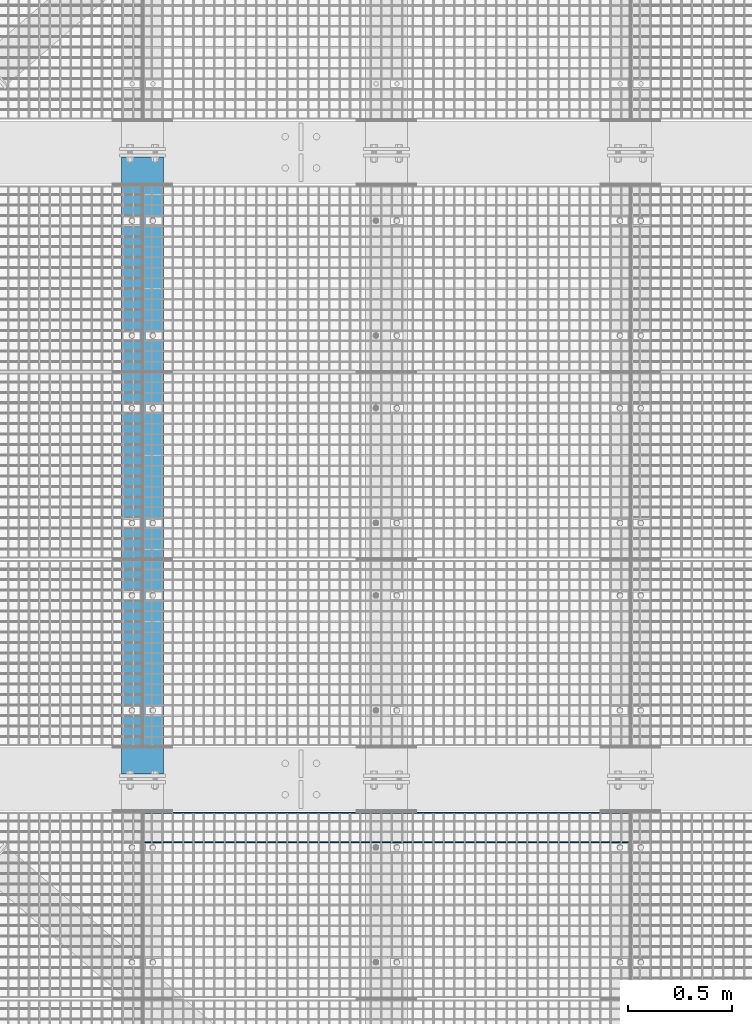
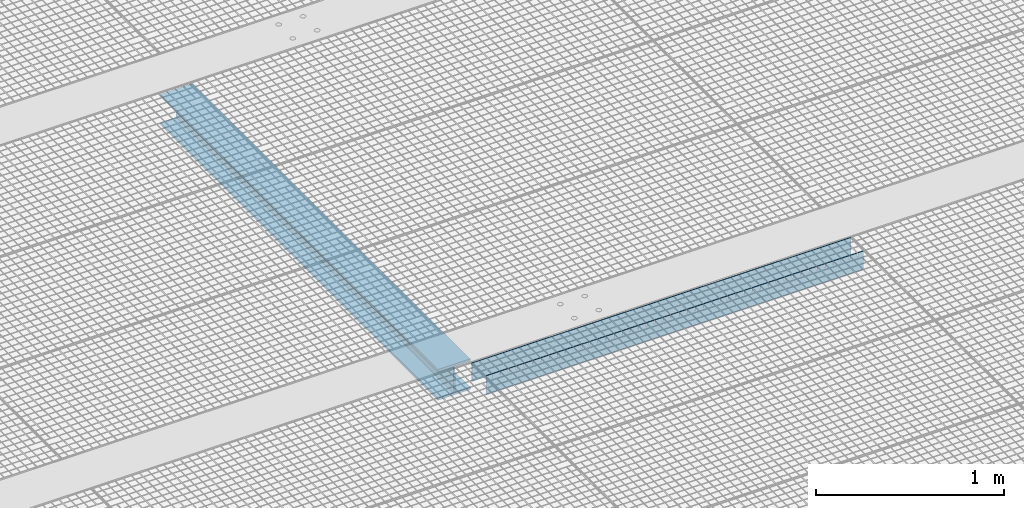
# One storey, part 365 of 1530: 3 beams.
"""IFC2X3 building model written with IfcOpenShell, lengths in millimetres."""

from ifc_helpers import new_model, si_unit, frame, origin_with_axes, place, context, subcontext, project, spatial, faceted_brep, material, type_object, element, save


model = new_model("IFC2X3")

# Units and contexts
model_context = context("Model", 3, precision=1e-05, world=origin_with_axes())
body_context = subcontext(model_context, "Body", "Model", "MODEL_VIEW")
ifc_project = project(units=[si_unit("LENGTHUNIT", "METRE", prefix="MILLI"), si_unit("AREAUNIT", "SQUARE_METRE"), si_unit("VOLUMEUNIT", "CUBIC_METRE"), si_unit("MASSUNIT", "GRAM", prefix="KILO"), si_unit("TIMEUNIT", "SECOND"), si_unit("PLANEANGLEUNIT", "RADIAN"), si_unit("SOLIDANGLEUNIT", "STERADIAN"), si_unit("THERMODYNAMICTEMPERATUREUNIT", "DEGREE_CELSIUS"), si_unit("LUMINOUSINTENSITYUNIT", "LUMEN")], contexts=[model_context])

# Site, building, storey
site_placement = place(None, origin_with_axes())
site = spatial("IfcSite", under=ifc_project, at=site_placement, Name="Brattvåg", CompositionType="ELEMENT")
building_placement = place(site_placement, origin_with_axes())
building = spatial("IfcBuilding", under=site, at=building_placement, Name="Undefined", CompositionType="ELEMENT")
storey_placement = place(building_placement, origin_with_axes())
storey = spatial("IfcBuildingStorey", under=building, at=storey_placement, Name="Undefined", CompositionType="ELEMENT", Elevation=0.0)

# Beams
ifc_material_1 = material(Name="STEEL/S355J2")
beam_type_1 = type_object("IfcBeamType", Name="120*5", PredefinedType="NOTDEFINED")
beam_1_placement = place(storey_placement, frame((7570.01317977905, 2696.99563598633, -59.9998626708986), z_axis=(0.0, 0.0, 1.0), x_axis=(-1.0, 1.99999855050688e-09, 0.0)))
element("IfcBeam", 1, at=beam_1_placement, inside=storey, type_object=beam_type_1, material=ifc_material_1, Name="GRATING", context=body_context, shape_type="Brep", body=[
    faceted_brep([(83.5790367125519, -2.50000000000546, 60.0000722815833), (83.5790367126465, -2.50000000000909, 35.0001373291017), (83.5790367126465, 2.50022888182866, 35.0001373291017), (83.5790367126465, 2.5, 60.0), (88.5790367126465, -2.50000000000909, 35.0001373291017), (88.5790367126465, 2.50022888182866, 35.0001373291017), (88.5790367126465, -2.50000000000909, 60.0001373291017), (88.5790367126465, 2.5, 60.0), (38.6284370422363, -2.50000000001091, 60.0001373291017), (38.6284370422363, 2.5, 60.0), (38.6284370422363, 2.49999999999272, 35.0001373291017), (38.6284370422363, -2.50000000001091, 35.0001373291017), (33.6284370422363, 2.49999999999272, 35.0001373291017), (33.6284370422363, -2.50000000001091, 35.0001373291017), (33.6284370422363, -2.5, 60.0), (33.6284370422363, 2.5, 60.0), (0.0, 2.5, 60.0), (0.0, -2.5, 60.0), (0.0, -2.5, -60.0), (0.0, 2.5, -60.0), (2319.99865722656, 2.5, -60.0), (2319.99865722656, -2.5, -60.0), (2319.99865722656, -2.5, 60.0), (2319.99865722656, 2.5, 60.0), (2286.37871932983, 2.5, 60.0), (2286.37871932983, -2.50000000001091, 60.0001373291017), (2286.37871932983, 2.49999999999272, 35.0001373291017), (2286.37871932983, -2.50000000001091, 35.0001373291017), (2281.37871932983, 2.49999999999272, 35.0001373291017), (2281.37871932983, -2.50000000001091, 35.0001373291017), (2281.37871932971, -2.50000000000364, 60.0000634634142), (2281.37871932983, 2.5, 60.0), (2236.42859649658, 2.5, 60.0), (2236.42859649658, -2.50000000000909, 60.0001373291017), (2236.42859649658, 2.50022888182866, 35.0001373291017), (2236.42859649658, -2.50000000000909, 35.0001373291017), (2231.42859649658, 2.50022888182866, 35.0001373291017), (2231.42859649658, -2.50000000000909, 35.0001373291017), (2231.42859649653, -2.50000000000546, 60.0000910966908), (2231.42859649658, 2.5, 60.0), (2186.47847366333, 2.5, 60.0), (2186.47847366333, -2.50000000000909, 60.0001373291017), (2186.47847366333, 2.50022888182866, 35.0001373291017), (2186.47847366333, -2.50000000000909, 35.0001373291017), (2181.47847366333, 2.50022888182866, 35.0001373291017), (2181.47847366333, -2.50000000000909, 35.0001373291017), (2181.47847366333, -2.5, 60.0), (2181.47847366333, 2.5, 60.0), (2136.52882766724, 2.5, 60.0), (2136.52882766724, -2.50000000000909, 60.0001373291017), (2136.52882766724, 2.50022888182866, 35.0001373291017), (2136.52882766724, -2.50000000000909, 35.0001373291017), (2131.52882766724, 2.50022888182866, 35.0001373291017), (2131.52882766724, -2.50000000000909, 35.0001373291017), (2131.52882766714, -2.50000000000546, 60.0000722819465), (2131.52882766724, 2.5, 60.0), (2086.57870483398, 2.5, 60.0), (2086.57870483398, -2.50000000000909, 60.0001373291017), (2086.57870483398, 2.50022888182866, 35.0001373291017), (2086.57870483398, -2.50000000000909, 35.0001373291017), (2081.57870483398, 2.50022888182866, 35.0001373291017), (2081.57870483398, -2.50000000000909, 35.0001373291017), (2081.57870483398, -2.5, 60.0), (2081.57870483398, 2.5, 60.0), (2036.62858200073, 2.5, 60.0), (2036.62858200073, -2.50000000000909, 60.0001373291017), (2036.62858200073, 2.50022888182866, 35.0001373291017), (2036.62858200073, -2.50000000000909, 35.0001373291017), (2031.62858200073, 2.50022888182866, 35.0001373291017), (2031.62858200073, -2.50000000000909, 35.0001373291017), (2031.62858200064, -2.50000000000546, 60.0000722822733), (2031.62858200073, 2.5, 60.0), (1986.67845916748, 2.5, 60.0), (1986.67845916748, -2.50000000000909, 60.0001373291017), (1986.67845916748, 2.50022888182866, 35.0001373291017), (1986.67845916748, -2.50000000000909, 35.0001373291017), (1981.67845916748, 2.50022888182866, 35.0001373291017), (1981.67845916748, -2.50000000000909, 35.0001373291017), (1981.67845916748, -2.5, 60.0), (1981.67845916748, 2.5, 60.0), (1936.72881317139, 2.5, 60.0), (1936.72881317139, -2.50000000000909, 60.0001373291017), (1936.72881317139, 2.50022888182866, 35.0001373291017), (1936.72881317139, -2.50000000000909, 35.0001373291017), (1931.72881317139, 2.50022888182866, 35.0001373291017), (1931.72881317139, -2.50000000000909, 35.0001373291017), (1931.72881317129, -2.50000000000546, 60.0000722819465), (1931.72881317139, 2.5, 60.0), (1886.77869033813, 2.5, 60.0), (1886.77869033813, -2.50000000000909, 60.0001373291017), (1886.77869033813, 2.50022888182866, 35.0001373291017), (1886.77869033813, -2.50000000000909, 35.0001373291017), (1881.77869033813, 2.50022888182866, 35.0001373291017), (1881.77869033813, -2.50000000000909, 35.0001373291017), (1881.77869033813, -2.5, 60.0), (1881.77869033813, 2.5, 60.0), (1836.82856750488, 2.5, 60.0), (1836.82856750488, -2.50000000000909, 60.0001373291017), (1836.82856750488, 2.50022888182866, 35.0001373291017), (1836.82856750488, -2.50000000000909, 35.0001373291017), (1831.82856750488, 2.50022888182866, 35.0001373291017), (1831.82856750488, -2.50000000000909, 35.0001373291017), (1831.82856750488, -2.5, 60.0), (1831.82856750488, 2.5, 60.0), (1786.87892150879, 2.5, 60.0), (1786.87892150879, -2.50000000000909, 60.0001373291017), (1786.87892150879, 2.50022888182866, 35.0001373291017), (1786.87892150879, -2.50000000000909, 35.0001373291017), (1781.87892150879, 2.50022888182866, 35.0001373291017), (1781.87892150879, -2.50000000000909, 35.0001373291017), (1781.87892150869, -2.50000000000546, 60.0000722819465), (1781.87892150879, 2.5, 60.0), (1736.92879867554, 2.5, 60.0), (1736.92879867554, -2.50000000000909, 60.0001373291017), (1736.92879867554, 2.50022888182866, 35.0001373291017), (1736.92879867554, -2.50000000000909, 35.0001373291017), (1731.92879867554, 2.50022888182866, 35.0001373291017), (1731.92879867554, -2.50000000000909, 35.0001373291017), (1731.92879867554, -2.5, 60.0), (1731.92879867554, 2.5, 60.0), (1686.97867584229, 2.5, 60.0), (1686.97867584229, -2.50000000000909, 60.0001373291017), (1686.97867584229, 2.50022888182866, 35.0001373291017), (1686.97867584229, -2.50000000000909, 35.0001373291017), (1681.97867584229, 2.50022888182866, 35.0001373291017), (1681.97867584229, -2.50000000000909, 35.0001373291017), (1681.97867584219, -2.50000000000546, 60.0000722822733), (1681.97867584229, 2.5, 60.0), (1637.02855300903, 2.5, 60.0), (1637.02855300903, -2.50000000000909, 60.0001373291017), (1637.02855300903, 2.50022888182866, 35.0001373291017), (1637.02855300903, -2.50000000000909, 35.0001373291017), (1632.02855300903, 2.50022888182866, 35.0001373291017), (1632.02855300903, -2.50000000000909, 35.0001373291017), (1632.02855300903, -2.5, 60.0), (1632.02855300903, 2.5, 60.0), (1587.07890701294, 2.5, 60.0), (1587.07890701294, -2.50000000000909, 60.0001373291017), (1587.07890701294, 2.50022888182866, 35.0001373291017), (1587.07890701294, -2.50000000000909, 35.0001373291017), (1582.07890701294, 2.50022888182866, 35.0001373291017), (1582.07890701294, -2.50000000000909, 35.0001373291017), (1582.07890701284, -2.50000000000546, 60.0000722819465), (1582.07890701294, 2.5, 60.0), (1537.12878417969, 2.5, 60.0), (1537.12878417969, -2.50000000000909, 60.0001373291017), (1537.12878417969, 2.50022888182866, 35.0001373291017), (1537.12878417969, -2.50000000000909, 35.0001373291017), (1532.12878417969, 2.50022888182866, 35.0001373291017), (1532.12878417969, -2.50000000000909, 35.0001373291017), (1532.12878417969, -2.5, 60.0), (1532.12878417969, 2.5, 60.0), (1487.17866134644, 2.5, 60.0), (1487.17866134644, -2.50000000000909, 60.0001373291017), (1487.17866134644, 2.50022888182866, 35.0001373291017), (1487.17866134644, -2.50000000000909, 35.0001373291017), (1482.17866134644, 2.50022888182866, 35.0001373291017), (1482.17866134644, -2.50000000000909, 35.0001373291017), (1482.17866134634, -2.50000000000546, 60.0000722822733), (1482.17866134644, 2.5, 60.0), (1437.22853851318, 2.5, 60.0), (1437.22853851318, -2.50000000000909, 60.0001373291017), (1437.22853851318, 2.50022888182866, 35.0001373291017), (1437.22853851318, -2.50000000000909, 35.0001373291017), (1432.22853851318, 2.50022888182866, 35.0001373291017), (1432.22853851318, -2.50000000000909, 35.0001373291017), (1432.22853851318, -2.5, 60.0), (1432.22853851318, 2.5, 60.0), (1387.27889251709, 2.5, 60.0), (1387.27889251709, -2.50000000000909, 60.0001373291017), (1387.27889251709, 2.50022888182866, 35.0001373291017), (1387.27889251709, -2.50000000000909, 35.0001373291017), (1382.27889251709, 2.50022888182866, 35.0001373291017), (1382.27889251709, -2.50000000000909, 35.0001373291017), (1382.278892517, -2.50000000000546, 60.0000722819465), (1382.27889251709, 2.5, 60.0), (1337.32876968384, 2.5, 60.0), (1337.32876968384, -2.50000000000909, 60.0001373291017), (1337.32876968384, 2.50022888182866, 35.0001373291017), (1337.32876968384, -2.50000000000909, 35.0001373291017), (1332.32876968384, 2.50022888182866, 35.0001373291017), (1332.32876968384, -2.50000000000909, 35.0001373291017), (1332.32876968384, -2.5, 60.0), (1332.32876968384, 2.5, 60.0), (1287.37864685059, 2.5, 60.0), (1287.37864685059, -2.50000000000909, 60.0001373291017), (1287.37864685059, 2.50022888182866, 35.0001373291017), (1287.37864685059, -2.50000000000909, 35.0001373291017), (1282.37864685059, 2.50022888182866, 35.0001373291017), (1282.37864685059, -2.50000000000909, 35.0001373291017), (1282.37864685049, -2.50000000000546, 60.0000722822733), (1282.37864685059, 2.5, 60.0), (1237.42852401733, 2.5, 60.0), (1237.42852401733, -2.50000000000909, 60.0001373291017), (1237.42852401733, 2.50022888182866, 35.0001373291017), (1237.42852401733, -2.50000000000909, 35.0001373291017), (1232.42852401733, 2.50022888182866, 35.0001373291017), (1232.42852401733, -2.50000000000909, 35.0001373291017), (1232.42852401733, -2.5, 60.0), (1232.42852401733, 2.5, 60.0), (1187.47887802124, 2.5, 60.0), (1187.47887802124, -2.50000000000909, 60.0001373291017), (1187.47887802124, 2.50022888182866, 35.0001373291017), (1187.47887802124, -2.50000000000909, 35.0001373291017), (1182.47887802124, 2.50022888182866, 35.0001373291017), (1182.47887802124, -2.50000000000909, 35.0001373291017), (1182.47887802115, -2.50000000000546, 60.0000722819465), (1182.47887802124, 2.5, 60.0), (1137.52875518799, 2.5, 60.0), (1137.52875518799, -2.50000000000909, 60.0001373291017), (1137.52875518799, 2.50022888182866, 35.0001373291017), (1137.52875518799, -2.50000000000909, 35.0001373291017), (1132.52875518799, 2.50022888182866, 35.0001373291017), (1132.52875518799, -2.50000000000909, 35.0001373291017), (1132.52875518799, -2.5, 60.0), (1132.52875518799, 2.5, 60.0), (1087.57863235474, 2.5, 60.0), (1087.57863235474, -2.50000000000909, 60.0001373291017), (1087.57863235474, 2.50022888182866, 35.0001373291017), (1087.57863235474, -2.50000000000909, 35.0001373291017), (1082.57863235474, 2.50022888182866, 35.0001373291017), (1082.57863235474, -2.50000000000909, 35.0001373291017), (1082.57863235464, -2.50000000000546, 60.0000722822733), (1082.57863235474, 2.5, 60.0), (1037.62850952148, 2.5, 60.0), (1037.62850952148, -2.50000000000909, 60.0001373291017), (1037.62850952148, 2.50022888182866, 35.0001373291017), (1037.62850952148, -2.50000000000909, 35.0001373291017), (1032.62850952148, 2.50022888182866, 35.0001373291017), (1032.62850952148, -2.50000000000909, 35.0001373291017), (1032.62850952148, -2.5, 60.0), (1032.62850952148, 2.5, 60.0), (987.678863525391, 2.5, 60.0), (987.678863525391, -2.50000000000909, 60.0001373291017), (987.678863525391, 2.50022888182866, 35.0001373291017), (987.678863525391, -2.50000000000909, 35.0001373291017), (982.678863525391, 2.50022888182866, 35.0001373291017), (982.678863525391, -2.50000000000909, 35.0001373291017), (982.678863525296, -2.50000000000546, 60.0000722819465), (982.678863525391, 2.5, 60.0), (937.728740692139, 2.5, 60.0), (937.728740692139, -2.50000000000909, 60.0001373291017), (937.728740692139, 2.50022888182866, 35.0001373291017), (937.728740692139, -2.50000000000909, 35.0001373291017), (932.728740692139, 2.50022888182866, 35.0001373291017), (932.728740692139, -2.50000000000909, 35.0001373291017), (932.728740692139, -2.5, 60.0), (932.728740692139, 2.5, 60.0), (887.778617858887, 2.5, 60.0), (887.778617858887, -2.50000000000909, 60.0001373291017), (887.778617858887, 2.50022888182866, 35.0001373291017), (887.778617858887, -2.50000000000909, 35.0001373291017), (882.778617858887, 2.50022888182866, 35.0001373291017), (882.778617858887, -2.50000000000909, 35.0001373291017), (882.778617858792, -2.50000000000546, 60.0000722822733), (882.778617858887, 2.5, 60.0), (837.828495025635, 2.5, 60.0), (837.828495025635, -2.50000000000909, 60.0001373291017), (837.828495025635, 2.50022888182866, 35.0001373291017), (837.828495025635, -2.50000000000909, 35.0001373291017), (832.828495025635, 2.50022888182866, 35.0001373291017), (832.828495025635, -2.50000000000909, 35.0001373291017), (832.828495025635, -2.5, 60.0), (832.828495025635, 2.5, 60.0), (787.878849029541, 2.5, 60.0), (787.878849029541, -2.50000000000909, 60.0001373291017), (787.878849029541, 2.50022888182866, 35.0001373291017), (787.878849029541, -2.50000000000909, 35.0001373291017), (782.878849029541, 2.50022888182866, 35.0001373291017), (782.878849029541, -2.50000000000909, 35.0001373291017), (782.878849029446, -2.50000000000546, 60.0000722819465), (782.878849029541, 2.5, 60.0), (737.928726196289, 2.5, 60.0), (737.928726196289, -2.50000000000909, 60.0001373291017), (737.928726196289, 2.50022888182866, 35.0001373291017), (737.928726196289, -2.50000000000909, 35.0001373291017), (732.928726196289, 2.50022888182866, 35.0001373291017), (732.928726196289, -2.50000000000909, 35.0001373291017), (732.928726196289, -2.5, 60.0), (732.928726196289, 2.5, 60.0), (687.978603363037, 2.5, 60.0), (687.978603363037, -2.50000000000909, 60.0001373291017), (687.978603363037, 2.50022888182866, 35.0001373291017), (687.978603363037, -2.50000000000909, 35.0001373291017), (682.978603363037, 2.50022888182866, 35.0001373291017), (682.978603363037, -2.50000000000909, 35.0001373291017), (682.978603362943, -2.50000000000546, 60.0000722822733), (682.978603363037, 2.5, 60.0), (638.028480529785, 2.5, 60.0), (638.028480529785, -2.50000000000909, 60.0001373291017), (638.028480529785, 2.50022888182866, 35.0001373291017), (638.028480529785, -2.50000000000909, 35.0001373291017), (633.028480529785, 2.50022888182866, 35.0001373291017), (633.028480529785, -2.50000000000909, 35.0001373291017), (633.028480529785, -2.5, 60.0), (633.028480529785, 2.5, 60.0), (588.078834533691, 2.5, 60.0), (588.078834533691, -2.50000000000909, 60.0001373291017), (588.078834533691, 2.50022888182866, 35.0001373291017), (588.078834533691, -2.50000000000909, 35.0001373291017), (583.078834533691, 2.50022888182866, 35.0001373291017), (583.078834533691, -2.50000000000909, 35.0001373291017), (583.078834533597, -2.50000000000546, 60.0000722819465), (583.078834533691, 2.5, 60.0), (538.128711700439, 2.5, 60.0), (538.128711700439, -2.50000000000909, 60.0001373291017), (538.128711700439, 2.50022888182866, 35.0001373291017), (538.128711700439, -2.50000000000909, 35.0001373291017), (533.128711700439, 2.50022888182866, 35.0001373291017), (533.128711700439, -2.50000000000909, 35.0001373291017), (533.128711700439, -2.5, 60.0), (533.128711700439, 2.5, 60.0), (488.178588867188, 2.5, 60.0), (488.178588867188, -2.50000000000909, 60.0001373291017), (488.178588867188, 2.50022888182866, 35.0001373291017), (488.178588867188, -2.50000000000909, 35.0001373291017), (483.178588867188, 2.50022888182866, 35.0001373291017), (483.178588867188, -2.50000000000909, 35.0001373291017), (483.178588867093, -2.50000000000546, 60.0000722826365), (483.178588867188, 2.5, 60.0), (438.228942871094, 2.5, 60.0), (438.228942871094, -2.50000000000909, 60.0001373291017), (438.228942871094, 2.50022888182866, 35.0001373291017), (438.228942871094, -2.50000000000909, 35.0001373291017), (433.228942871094, 2.50022888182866, 35.0001373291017), (433.228942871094, -2.50000000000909, 35.0001373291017), (433.228942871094, -2.5, 60.0), (433.228942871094, 2.5, 60.0), (388.278820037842, 2.5, 60.0), (388.278820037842, -2.50000000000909, 60.0001373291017), (388.278820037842, 2.50022888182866, 35.0001373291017), (388.278820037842, -2.50000000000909, 35.0001373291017), (383.278820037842, 2.50022888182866, 35.0001373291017), (383.278820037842, -2.50000000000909, 35.0001373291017), (383.278820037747, -2.50000000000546, 60.0000722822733), (383.278820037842, 2.5, 60.0), (338.32869720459, 2.5, 60.0), (338.32869720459, -2.50000000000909, 60.0001373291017), (338.32869720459, 2.50022888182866, 35.0001373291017), (338.32869720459, -2.50000000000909, 35.0001373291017), (333.32869720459, 2.50022888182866, 35.0001373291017), (333.32869720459, -2.50000000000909, 35.0001373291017), (333.32869720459, -2.5, 60.0), (333.32869720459, 2.5, 60.0), (288.378574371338, 2.5, 60.0), (288.378574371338, -2.50000000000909, 60.0001373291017), (288.378574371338, 2.50022888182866, 35.0001373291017), (288.378574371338, -2.50000000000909, 35.0001373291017), (283.378574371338, 2.50022888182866, 35.0001373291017), (283.378574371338, -2.50000000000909, 35.0001373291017), (283.378574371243, -2.50000000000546, 60.0000722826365), (283.378574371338, 2.5, 60.0), (238.428928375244, 2.5, 60.0), (238.428928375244, -2.50000000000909, 60.0001373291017), (238.428928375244, 2.50022888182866, 35.0001373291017), (238.428928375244, -2.50000000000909, 35.0001373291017), (233.428928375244, 2.50022888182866, 35.0001373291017), (233.428928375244, -2.50000000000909, 35.0001373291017), (233.428928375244, -2.5, 60.0), (233.428928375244, 2.5, 60.0), (188.478328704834, 2.5, 60.0), (188.478328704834, -2.50000000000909, 60.0001373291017), (188.478328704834, 2.50022888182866, 35.0001373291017), (188.478328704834, -2.50000000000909, 35.0001373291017), (183.478328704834, 2.50022888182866, 35.0001373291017), (183.478328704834, -2.50000000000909, 35.0001373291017), (183.478328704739, -2.50000000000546, 60.0000722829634), (183.478328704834, 2.5, 60.0), (138.52868270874, 2.5, 60.0), (138.52868270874, -2.50000000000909, 60.0001373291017), (138.52868270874, 2.50022888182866, 35.0001373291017), (138.52868270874, -2.50000000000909, 35.0001373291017), (133.52868270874, 2.50022888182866, 35.0001373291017), (133.52868270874, -2.50000000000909, 35.0001373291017), (133.52868270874, -2.5, 60.0), (133.52868270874, 2.5, 60.0)], [[[0, 1, 2, 3]], [[4, 5, 2, 1]], [[6, 7, 5, 4]], [[8, 9, 10, 11]], [[11, 10, 12, 13]], [[14, 13, 12, 15]], [[16, 17, 14, 15]], [[18, 17, 16, 19]], [[18, 19, 20, 21]], [[22, 21, 20, 23]], [[22, 23, 24, 25]], [[25, 24, 26, 27]], [[27, 26, 28, 29]], [[30, 29, 28, 31]], [[32, 33, 30, 31]], [[33, 32, 34, 35]], [[35, 34, 36, 37]], [[38, 37, 36, 39]], [[40, 41, 38, 39]], [[41, 40, 42, 43]], [[43, 42, 44, 45]], [[46, 45, 44, 47]], [[46, 47, 48, 49]], [[49, 48, 50, 51]], [[51, 50, 52, 53]], [[54, 53, 52, 55]], [[56, 57, 54, 55]], [[57, 56, 58, 59]], [[59, 58, 60, 61]], [[62, 61, 60, 63]], [[62, 63, 64, 65]], [[65, 64, 66, 67]], [[67, 66, 68, 69]], [[70, 69, 68, 71]], [[72, 73, 70, 71]], [[73, 72, 74, 75]], [[75, 74, 76, 77]], [[78, 77, 76, 79]], [[78, 79, 80, 81]], [[81, 80, 82, 83]], [[83, 82, 84, 85]], [[86, 85, 84, 87]], [[88, 89, 86, 87]], [[89, 88, 90, 91]], [[91, 90, 92, 93]], [[94, 93, 92, 95]], [[94, 95, 96, 97]], [[97, 96, 98, 99]], [[99, 98, 100, 101]], [[102, 101, 100, 103]], [[102, 103, 104, 105]], [[105, 104, 106, 107]], [[107, 106, 108, 109]], [[110, 109, 108, 111]], [[112, 113, 110, 111]], [[113, 112, 114, 115]], [[115, 114, 116, 117]], [[118, 117, 116, 119]], [[118, 119, 120, 121]], [[121, 120, 122, 123]], [[123, 122, 124, 125]], [[126, 125, 124, 127]], [[128, 129, 126, 127]], [[129, 128, 130, 131]], [[131, 130, 132, 133]], [[134, 133, 132, 135]], [[134, 135, 136, 137]], [[137, 136, 138, 139]], [[139, 138, 140, 141]], [[142, 141, 140, 143]], [[144, 145, 142, 143]], [[145, 144, 146, 147]], [[147, 146, 148, 149]], [[150, 149, 148, 151]], [[150, 151, 152, 153]], [[153, 152, 154, 155]], [[155, 154, 156, 157]], [[158, 157, 156, 159]], [[160, 161, 158, 159]], [[161, 160, 162, 163]], [[163, 162, 164, 165]], [[166, 165, 164, 167]], [[166, 167, 168, 169]], [[169, 168, 170, 171]], [[171, 170, 172, 173]], [[174, 173, 172, 175]], [[176, 177, 174, 175]], [[177, 176, 178, 179]], [[179, 178, 180, 181]], [[182, 181, 180, 183]], [[182, 183, 184, 185]], [[185, 184, 186, 187]], [[187, 186, 188, 189]], [[190, 189, 188, 191]], [[192, 193, 190, 191]], [[193, 192, 194, 195]], [[195, 194, 196, 197]], [[198, 197, 196, 199]], [[198, 199, 200, 201]], [[201, 200, 202, 203]], [[203, 202, 204, 205]], [[206, 205, 204, 207]], [[208, 209, 206, 207]], [[209, 208, 210, 211]], [[211, 210, 212, 213]], [[214, 213, 212, 215]], [[214, 215, 216, 217]], [[217, 216, 218, 219]], [[219, 218, 220, 221]], [[222, 221, 220, 223]], [[224, 225, 222, 223]], [[225, 224, 226, 227]], [[227, 226, 228, 229]], [[230, 229, 228, 231]], [[230, 231, 232, 233]], [[233, 232, 234, 235]], [[235, 234, 236, 237]], [[238, 237, 236, 239]], [[240, 241, 238, 239]], [[241, 240, 242, 243]], [[243, 242, 244, 245]], [[246, 245, 244, 247]], [[246, 247, 248, 249]], [[249, 248, 250, 251]], [[251, 250, 252, 253]], [[254, 253, 252, 255]], [[256, 257, 254, 255]], [[257, 256, 258, 259]], [[259, 258, 260, 261]], [[262, 261, 260, 263]], [[262, 263, 264, 265]], [[265, 264, 266, 267]], [[267, 266, 268, 269]], [[270, 269, 268, 271]], [[272, 273, 270, 271]], [[273, 272, 274, 275]], [[275, 274, 276, 277]], [[278, 277, 276, 279]], [[278, 279, 280, 281]], [[281, 280, 282, 283]], [[283, 282, 284, 285]], [[286, 285, 284, 287]], [[288, 289, 286, 287]], [[289, 288, 290, 291]], [[291, 290, 292, 293]], [[294, 293, 292, 295]], [[294, 295, 296, 297]], [[297, 296, 298, 299]], [[299, 298, 300, 301]], [[302, 301, 300, 303]], [[304, 305, 302, 303]], [[305, 304, 306, 307]], [[307, 306, 308, 309]], [[310, 309, 308, 311]], [[310, 311, 312, 313]], [[313, 312, 314, 315]], [[315, 314, 316, 317]], [[318, 317, 316, 319]], [[320, 321, 318, 319]], [[321, 320, 322, 323]], [[323, 322, 324, 325]], [[326, 325, 324, 327]], [[326, 327, 328, 329]], [[329, 328, 330, 331]], [[331, 330, 332, 333]], [[334, 333, 332, 335]], [[336, 337, 334, 335]], [[337, 336, 338, 339]], [[339, 338, 340, 341]], [[342, 341, 340, 343]], [[342, 343, 344, 345]], [[345, 344, 346, 347]], [[347, 346, 348, 349]], [[350, 349, 348, 351]], [[352, 353, 350, 351]], [[353, 352, 354, 355]], [[355, 354, 356, 357]], [[358, 357, 356, 359]], [[358, 359, 360, 361]], [[361, 360, 362, 363]], [[363, 362, 364, 365]], [[366, 365, 364, 367]], [[368, 369, 366, 367]], [[369, 368, 370, 371]], [[371, 370, 372, 373]], [[374, 373, 372, 375]], [[1, 0, 8, 11, 13, 14, 17, 18, 21, 22, 25, 27, 29, 30, 33, 35, 37, 38, 41, 43, 45, 46, 49, 51, 53, 54, 57, 59, 61, 62, 65, 67, 69, 70, 73, 75, 77, 78, 81, 83, 85, 86, 89, 91, 93, 94, 97, 99, 101, 102, 105, 107, 109, 110, 113, 115, 117, 118, 121, 123, 125, 126, 129, 131, 133, 134, 137, 139, 141, 142, 145, 147, 149, 150, 153, 155, 157, 158, 161, 163, 165, 166, 169, 171, 173, 174, 177, 179, 181, 182, 185, 187, 189, 190, 193, 195, 197, 198, 201, 203, 205, 206, 209, 211, 213, 214, 217, 219, 221, 222, 225, 227, 229, 230, 233, 235, 237, 238, 241, 243, 245, 246, 249, 251, 253, 254, 257, 259, 261, 262, 265, 267, 269, 270, 273, 275, 277, 278, 281, 283, 285, 286, 289, 291, 293, 294, 297, 299, 301, 302, 305, 307, 309, 310, 313, 315, 317, 318, 321, 323, 325, 326, 329, 331, 333, 334, 337, 339, 341, 342, 345, 347, 349, 350, 353, 355, 357, 358, 361, 363, 365, 366, 369, 371, 373, 374, 6, 4]], [[9, 8, 0, 3]], [[375, 372, 370, 368, 367, 364, 362, 360, 359, 356, 354, 352, 351, 348, 346, 344, 343, 340, 338, 336, 335, 332, 330, 328, 327, 324, 322, 320, 319, 316, 314, 312, 311, 308, 306, 304, 303, 300, 298, 296, 295, 292, 290, 288, 287, 284, 282, 280, 279, 276, 274, 272, 271, 268, 266, 264, 263, 260, 258, 256, 255, 252, 250, 248, 247, 244, 242, 240, 239, 236, 234, 232, 231, 228, 226, 224, 223, 220, 218, 216, 215, 212, 210, 208, 207, 204, 202, 200, 199, 196, 194, 192, 191, 188, 186, 184, 183, 180, 178, 176, 175, 172, 170, 168, 167, 164, 162, 160, 159, 156, 154, 152, 151, 148, 146, 144, 143, 140, 138, 136, 135, 132, 130, 128, 127, 124, 122, 120, 119, 116, 114, 112, 111, 108, 106, 104, 103, 100, 98, 96, 95, 92, 90, 88, 87, 84, 82, 80, 79, 76, 74, 72, 71, 68, 66, 64, 63, 60, 58, 56, 55, 52, 50, 48, 47, 44, 42, 40, 39, 36, 34, 32, 31, 28, 26, 24, 23, 20, 19, 16, 15, 12, 10, 9, 3, 2, 5, 7]], [[374, 375, 7, 6]]]),
])
beam_2_placement = place(storey_placement, frame((7575.00899291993, 2838.49917602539, -59.9998626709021), z_axis=(0.0, 0.0, 1.0), x_axis=(-1.0, 1.99999855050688e-09, 0.0)))
element("IfcBeam", 2, at=beam_2_placement, inside=storey, type_object=beam_type_1, material=ifc_material_1, Name="GRATING", context=body_context, shape_type="Brep", body=[
    faceted_brep([(0.0, 2.5, -60.0), (0.0, 2.5, 60.0), (2329.99832153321, 2.5, 60.0), (2329.99832153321, 2.5, -60.0), (0.0, -2.5, 60.0), (2329.99832153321, -2.5, 60.0), (0.0, -2.5, -60.0), (2329.99832153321, -2.5, -60.0)], [[[0, 1, 2, 3]], [[1, 4, 5, 2]], [[4, 6, 7, 5]], [[6, 0, 3, 7]], [[5, 7, 3, 2]], [[6, 4, 1, 0]]]),
])
ifc_material_2 = material(Name="STEEL/S355J2+N")
beam_type_2 = type_object("IfcBeamType", Name="HEB200", PredefinedType="NOTDEFINED")
beam_3_placement = place(storey_placement, frame((5242.00112915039, 3023.00155639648, -219.998931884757), z_axis=(0.0, 0.0, 1.0), x_axis=(0.0, 1.0, 0.0)))
element("IfcBeam", 3, at=beam_3_placement, inside=storey, type_object=beam_type_2, material=ifc_material_2, Name="STÅLBJELKE", context=body_context, shape_type="Brep", body=[
    faceted_brep([(0.0, 100.0, -100.0), (0.0, 100.0, -85.0), (2953.99993896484, 100.0, -85.0), (2953.99993896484, 100.0, -100.0), (0.0, 4.5, -85.0), (2953.99993896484, 4.5, -85.0), (0.0, 4.5, 85.0), (2953.99993896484, 4.5, 85.0), (0.0, 100.0, 85.0), (2953.99993896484, 100.0, 85.0), (0.0, 100.0, 100.0), (2953.99993896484, 100.0, 100.0), (0.0, -100.0, 100.0), (2953.99993896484, -100.0, 100.0), (0.0, -100.0, 85.0), (2953.99993896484, -100.0, 85.0), (0.0, -4.5, 85.0), (2953.99993896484, -4.5, 85.0), (0.0, -4.5, -85.0), (2953.99993896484, -4.5, -85.0), (0.0, -100.0, -85.0), (2953.99993896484, -100.0, -85.0), (0.0, -100.0, -100.0), (2953.99993896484, -100.0, -100.0)], [[[0, 1, 2, 3]], [[1, 4, 5, 2]], [[4, 6, 7, 5]], [[6, 8, 9, 7]], [[8, 10, 11, 9]], [[10, 12, 13, 11]], [[12, 14, 15, 13]], [[14, 16, 17, 15]], [[16, 18, 19, 17]], [[18, 20, 21, 19]], [[20, 22, 23, 21]], [[22, 0, 3, 23]], [[5, 7, 9, 11, 13, 15, 17, 19, 21, 23, 3, 2]], [[22, 20, 18, 16, 14, 12, 10, 8, 6, 4, 1, 0]]]),
])

save(model, "model.ifc")
